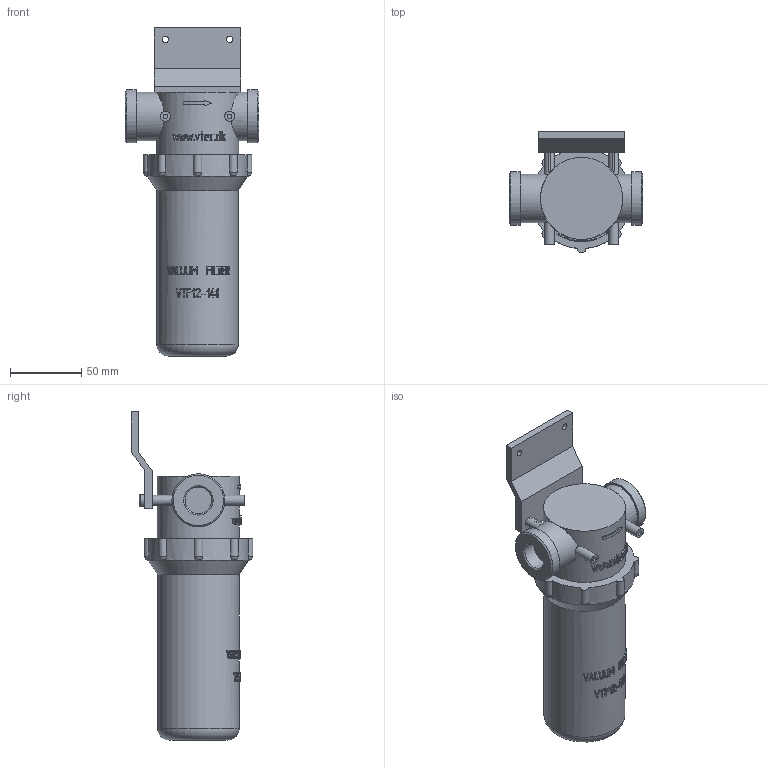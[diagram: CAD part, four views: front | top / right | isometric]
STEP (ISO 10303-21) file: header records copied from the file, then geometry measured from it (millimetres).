
FILE_DESCRIPTION( ( 'STEP AP214' ), '1' );
FILE_NAME( 'C:/撲啗紫賊-02/3D-Step File/Accessories/Vacuum Filter/VTF12-141.stp', '2006-04-24T05:51:39', ( ' ' ), ( ' ' ), 'XStep 1.0', ' ', ' ' );
FILE_SCHEMA( ( 'CONFIG_CONTROL_DESIGN) ( )' ) );
Length unit declared in the file: metre
Products named in the file (1): 1
Bounding box: 93.8 x 84.99 x 230 mm (x, y, z)
Volume: 548472.9 mm3; surface area: 60885.3 mm2
Topology: 1 solids, 1 shells, 414 faces, 1086 edges, 715 vertices
Faces by surface type: plane 219, bspline 99, cylinder 79, sphere 8, cone 6, torus 3
Full cylindrical faces by diameter (mm): 3.2 x2, 4.5 x2, 7 x4, 8 x2, 18.6 x2, 34 x2, 37.2 x2, 57 x1, 57.5 x1
Entity records: 23113 total; most frequent: CARTESIAN_POINT 10311, ORIENTED_EDGE 2072, DIRECTION 1704, EDGE_CURVE 1036, VERTEX_POINT 700, AXIS2_PLACEMENT_3D 602, LINE 500, VECTOR 500
